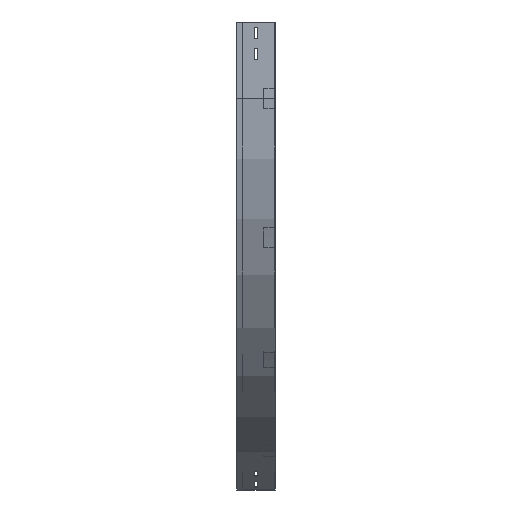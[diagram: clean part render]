
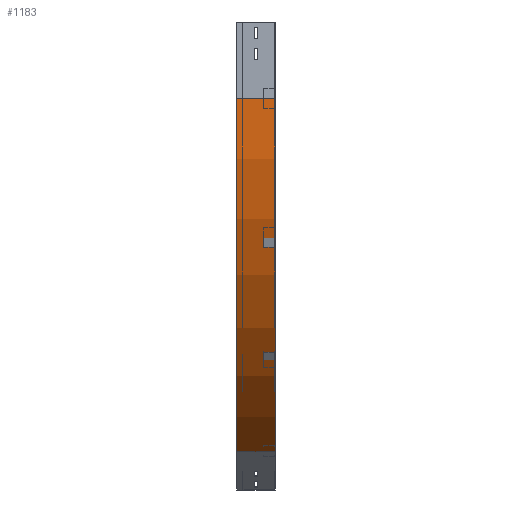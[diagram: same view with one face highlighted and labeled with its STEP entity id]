
A CAD part, left-side view. The second image highlights one B-rep face of the part: STEP entity #1183.
In plain terms, the highlighted cylindrical face has radius 800 mm (diameter 1600 mm), a partial arc.
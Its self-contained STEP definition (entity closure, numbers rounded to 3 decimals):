
#4 = VERTEX_POINT ( 'NONE', #2205 ) ;
#320 = CIRCLE ( 'NONE', #2693, 800. ) ;
#327 = DIRECTION ( 'NONE',  ( 0., -1., 0. ) ) ;
#339 = DIRECTION ( 'NONE',  ( 0., -1., 0. ) ) ;
#377 = VECTOR ( 'NONE', #3515, 1000. ) ;
#502 = DIRECTION ( 'NONE',  ( -1., 0., 0. ) ) ;
#561 = DIRECTION ( 'NONE',  ( 0., 0., -1. ) ) ;
#581 = CARTESIAN_POINT ( 'NONE',  ( 0., 75., -150. ) ) ;
#727 = LINE ( 'NONE', #3103, #377 ) ;
#771 = ORIENTED_EDGE ( 'NONE', *, *, #3714, .T. ) ;
#782 = AXIS2_PLACEMENT_3D ( 'NONE', #1699, #3427, #502 ) ;
#805 = EDGE_CURVE ( 'NONE', #3412, #4, #320, .T. ) ;
#1104 = EDGE_LOOP ( 'NONE', ( #2343, #3156, #3571, #771 ) ) ;
#1124 = VERTEX_POINT ( 'NONE', #3250 ) ;
#1175 = CYLINDRICAL_SURFACE ( 'NONE', #1785, 800. ) ;
#1183 = ADVANCED_FACE ( 'NONE', ( #1778 ), #1175, .T. ) ;
#1190 = CARTESIAN_POINT ( 'NONE',  ( 400., 0., -842.82 ) ) ;
#1450 = EDGE_CURVE ( 'NONE', #3253, #1124, #2281, .T. ) ;
#1699 = CARTESIAN_POINT ( 'NONE',  ( 800., 0., -150. ) ) ;
#1778 = FACE_OUTER_BOUND ( 'NONE', #1104, .T. ) ;
#1785 = AXIS2_PLACEMENT_3D ( 'NONE', #3585, #339, #561 ) ;
#1794 = EDGE_CURVE ( 'NONE', #3412, #3253, #727, .T. ) ;
#2134 = DIRECTION ( 'NONE',  ( -1., 0., 0. ) ) ;
#2205 = CARTESIAN_POINT ( 'NONE',  ( 400., 75., -842.82 ) ) ;
#2281 = CIRCLE ( 'NONE', #782, 800. ) ;
#2343 = ORIENTED_EDGE ( 'NONE', *, *, #1450, .F. ) ;
#2693 = AXIS2_PLACEMENT_3D ( 'NONE', #2710, #327, #2134 ) ;
#2710 = CARTESIAN_POINT ( 'NONE',  ( 800., 75., -150. ) ) ;
#2992 = DIRECTION ( 'NONE',  ( 0., -1., 0. ) ) ;
#3103 = CARTESIAN_POINT ( 'NONE',  ( 0., 0., -150. ) ) ;
#3156 = ORIENTED_EDGE ( 'NONE', *, *, #1794, .F. ) ;
#3246 = LINE ( 'NONE', #1190, #3602 ) ;
#3250 = CARTESIAN_POINT ( 'NONE',  ( 400., 0., -842.82 ) ) ;
#3253 = VERTEX_POINT ( 'NONE', #3513 ) ;
#3412 = VERTEX_POINT ( 'NONE', #581 ) ;
#3427 = DIRECTION ( 'NONE',  ( 0., -1., 0. ) ) ;
#3513 = CARTESIAN_POINT ( 'NONE',  ( 0., 0., -150. ) ) ;
#3515 = DIRECTION ( 'NONE',  ( 0., -1., 0. ) ) ;
#3571 = ORIENTED_EDGE ( 'NONE', *, *, #805, .T. ) ;
#3585 = CARTESIAN_POINT ( 'NONE',  ( 800., 0., -150. ) ) ;
#3602 = VECTOR ( 'NONE', #2992, 1000. ) ;
#3714 = EDGE_CURVE ( 'NONE', #4, #1124, #3246, .T. ) ;
